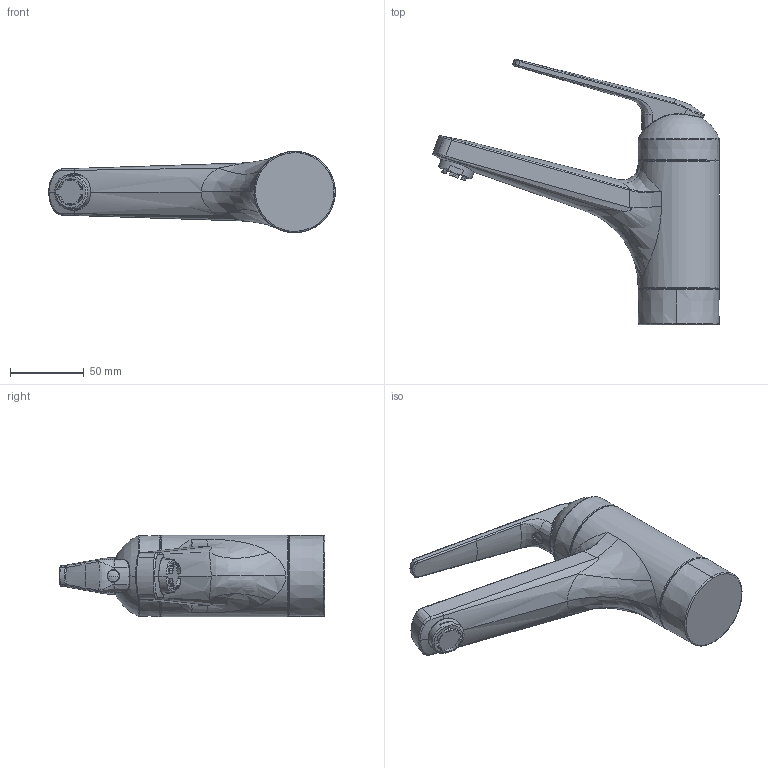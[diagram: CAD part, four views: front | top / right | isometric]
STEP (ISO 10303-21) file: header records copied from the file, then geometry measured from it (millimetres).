
FILE_DESCRIPTION((''),'2;1');
FILE_NAME('12_065_021_XXX','2012-06-08T',('azb9'),(''),'PRO/ENGINEER BY PARAMETRIC TECHNOLOGY CORPORATION, 2011080','PRO/ENGINEER BY PARAMETRIC TECHNOLOGY CORPORATION, 2011080','');
FILE_SCHEMA(('AUTOMOTIVE_DESIGN_CC2 { 1 2 10303 214 -1 1 5 2 }'));
Length unit declared in the file: millimetre
Products named in the file (1): 12_065_021_XXX
Bounding box: 194.02 x 179.83 x 55 mm (x, y, z)
Volume: 458406.8 mm3; surface area: 48522.9 mm2
Topology: 1 solids, 1 shells, 224 faces, 532 edges, 320 vertices
Faces by surface type: bspline 95, plane 59, cylinder 36, torus 16, cone 12, sphere 6
Entity records: 14990 total; most frequent: CARTESIAN_POINT 8026, ORIENTED_EDGE 1060, DIRECTION 761, EDGE_CURVE 530, FILL_AREA_STYLE_COLOUR 391, FILL_AREA_STYLE 391, SURFACE_STYLE_FILL_AREA 391, SURFACE_SIDE_STYLE 391
